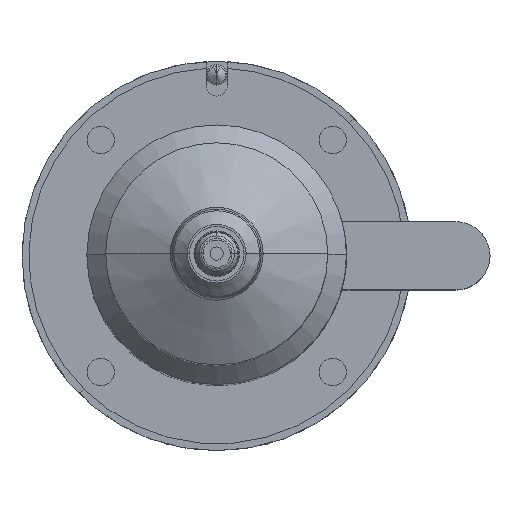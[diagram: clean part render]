
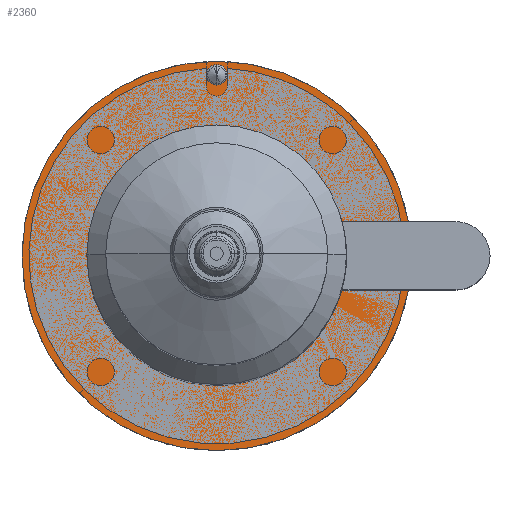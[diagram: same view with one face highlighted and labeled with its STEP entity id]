
A CAD part, top view. The second image highlights one B-rep face of the part: STEP entity #2360.
In plain terms, the highlighted planar face has unit normal (0, 0, 1).
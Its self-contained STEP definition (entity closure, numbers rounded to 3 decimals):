
#2360 = ADVANCED_FACE ( 'NONE', ( #14996, #14951 ), #11458, .T. ) ;
#7700 = CARTESIAN_POINT ( 'NONE',  ( 36.661, -10., 20. ) ) ;
#7714 = CARTESIAN_POINT ( 'NONE',  ( 56.116, -10., 20. ) ) ;
#7740 = CARTESIAN_POINT ( 'NONE',  ( 0., -57., 20. ) ) ;
#7776 = CARTESIAN_POINT ( 'NONE',  ( 0., 56., 20. ) ) ;
#7780 = CARTESIAN_POINT ( 'NONE',  ( -38., 0., 20. ) ) ;
#7816 = CARTESIAN_POINT ( 'NONE',  ( 36.661, 10., 20. ) ) ;
#7866 = CARTESIAN_POINT ( 'NONE',  ( 0., 50., 20. ) ) ;
#7868 = CARTESIAN_POINT ( 'NONE',  ( 0., 57., 20. ) ) ;
#7869 = CARTESIAN_POINT ( 'NONE',  ( 56.116, 10., 20. ) ) ;
#7954 = CARTESIAN_POINT ( 'NONE',  ( 0., 0., 20. ) ) ;
#7955 = DIRECTION ( 'NONE',  ( 0., 0., -1. ) ) ;
#7956 = DIRECTION ( 'NONE',  ( 0., 1., 0. ) ) ;
#8036 = CARTESIAN_POINT ( 'NONE',  ( 0., 0., 20. ) ) ;
#8037 = DIRECTION ( 'NONE',  ( 0., 0., 1. ) ) ;
#8038 = DIRECTION ( 'NONE',  ( 0., 1., 0. ) ) ;
#11316 = DIRECTION ( 'NONE',  ( 0., 0., 1. ) ) ;
#11426 = VERTEX_POINT ( 'NONE', #7700 ) ;
#11445 = DIRECTION ( 'NONE',  ( 0., 1., 0. ) ) ;
#11454 = VERTEX_POINT ( 'NONE', #7714 ) ;
#11458 = PLANE ( 'NONE',  #25893 ) ;
#11493 = VERTEX_POINT ( 'NONE', #7740 ) ;
#11503 = CARTESIAN_POINT ( 'NONE',  ( 0., 32.5, 20. ) ) ;
#11621 = VERTEX_POINT ( 'NONE', #7776 ) ;
#11703 = VERTEX_POINT ( 'NONE', #7780 ) ;
#11811 = VERTEX_POINT ( 'NONE', #7816 ) ;
#11995 = VERTEX_POINT ( 'NONE', #7866 ) ;
#11997 = VERTEX_POINT ( 'NONE', #7868 ) ;
#11998 = VERTEX_POINT ( 'NONE', #7869 ) ;
#14951 = FACE_BOUND ( 'NONE', #36655, .T. ) ;
#14996 = FACE_OUTER_BOUND ( 'NONE', #36503, .T. ) ;
#15199 = CIRCLE ( 'NONE', #37434, 38. ) ;
#15222 = CIRCLE ( 'NONE', #37361, 57. ) ;
#15252 = CIRCLE ( 'NONE', #37462, 57. ) ;
#15260 = CIRCLE ( 'NONE', #37445, 3. ) ;
#15306 = CIRCLE ( 'NONE', #37423, 3. ) ;
#15314 = CIRCLE ( 'NONE', #37421, 57. ) ;
#15326 = LINE ( 'NONE', #27116, #15327 ) ;
#15327 = VECTOR ( 'NONE', #27117, 1000. ) ;
#15332 = LINE ( 'NONE', #27122, #15333 ) ;
#15333 = VECTOR ( 'NONE', #27123, 1000. ) ;
#15335 = CIRCLE ( 'NONE', #37362, 38. ) ;
#18184 = ORIENTED_EDGE ( 'NONE', *, *, #22530, .F. ) ;
#18187 = ORIENTED_EDGE ( 'NONE', *, *, #22491, .F. ) ;
#18191 = ORIENTED_EDGE ( 'NONE', *, *, #22459, .T. ) ;
#18196 = ORIENTED_EDGE ( 'NONE', *, *, #22547, .T. ) ;
#18201 = ORIENTED_EDGE ( 'NONE', *, *, #22543, .F. ) ;
#18204 = ORIENTED_EDGE ( 'NONE', *, *, #22535, .T. ) ;
#18209 = ORIENTED_EDGE ( 'NONE', *, *, #22472, .T. ) ;
#18212 = ORIENTED_EDGE ( 'NONE', *, *, #22485, .T. ) ;
#18213 = ORIENTED_EDGE ( 'NONE', *, *, #22546, .F. ) ;
#22459 = EDGE_CURVE ( 'NONE', #11703, #11811, #15199, .T. ) ;
#22472 = EDGE_CURVE ( 'NONE', #11997, #11493, #15222, .T. ) ;
#22485 = EDGE_CURVE ( 'NONE', #11998, #11997, #15252, .T. ) ;
#22491 = EDGE_CURVE ( 'NONE', #11621, #11995, #15260, .T. ) ;
#22530 = EDGE_CURVE ( 'NONE', #11995, #11621, #15306, .T. ) ;
#22535 = EDGE_CURVE ( 'NONE', #11493, #11454, #15314, .T. ) ;
#22543 = EDGE_CURVE ( 'NONE', #11426, #11454, #15326, .T. ) ;
#22546 = EDGE_CURVE ( 'NONE', #11998, #11811, #15332, .T. ) ;
#22547 = EDGE_CURVE ( 'NONE', #11426, #11703, #15335, .T. ) ;
#25893 = AXIS2_PLACEMENT_3D ( 'NONE', #11503, #11316, #11445 ) ;
#26753 = CARTESIAN_POINT ( 'NONE',  ( 0., 0., 20. ) ) ;
#26755 = DIRECTION ( 'NONE',  ( 0., 0., 1. ) ) ;
#26757 = DIRECTION ( 'NONE',  ( 0., 1., 0. ) ) ;
#26866 = CARTESIAN_POINT ( 'NONE',  ( 0., 53., 20. ) ) ;
#26867 = DIRECTION ( 'NONE',  ( 0., 0., 1. ) ) ;
#26868 = DIRECTION ( 'NONE',  ( 0., 1., 0. ) ) ;
#27084 = CARTESIAN_POINT ( 'NONE',  ( 0., 53., 20. ) ) ;
#27085 = DIRECTION ( 'NONE',  ( 0., 0., 1. ) ) ;
#27086 = DIRECTION ( 'NONE',  ( 0., 1., 0. ) ) ;
#27097 = CARTESIAN_POINT ( 'NONE',  ( 0., 0., 20. ) ) ;
#27098 = DIRECTION ( 'NONE',  ( 0., 0., 1. ) ) ;
#27099 = DIRECTION ( 'NONE',  ( 0., 1., 0. ) ) ;
#27116 = CARTESIAN_POINT ( 'NONE',  ( 0., -10., 20. ) ) ;
#27117 = DIRECTION ( 'NONE',  ( 1., 0., 0. ) ) ;
#27122 = CARTESIAN_POINT ( 'NONE',  ( 0., 10., 20. ) ) ;
#27123 = DIRECTION ( 'NONE',  ( -1., 0., 0. ) ) ;
#27124 = CARTESIAN_POINT ( 'NONE',  ( 0., 0., 20. ) ) ;
#27125 = DIRECTION ( 'NONE',  ( 0., 0., -1. ) ) ;
#27126 = DIRECTION ( 'NONE',  ( 0., 1., 0. ) ) ;
#36503 = EDGE_LOOP ( 'NONE', ( #18213, #18212, #18209, #18204, #18201, #18196, #18191 ) ) ;
#36655 = EDGE_LOOP ( 'NONE', ( #18187, #18184 ) ) ;
#37361 = AXIS2_PLACEMENT_3D ( 'NONE', #8036, #8037, #8038 ) ;
#37362 = AXIS2_PLACEMENT_3D ( 'NONE', #27124, #27125, #27126 ) ;
#37421 = AXIS2_PLACEMENT_3D ( 'NONE', #27097, #27098, #27099 ) ;
#37423 = AXIS2_PLACEMENT_3D ( 'NONE', #27084, #27085, #27086 ) ;
#37434 = AXIS2_PLACEMENT_3D ( 'NONE', #7954, #7955, #7956 ) ;
#37445 = AXIS2_PLACEMENT_3D ( 'NONE', #26866, #26867, #26868 ) ;
#37462 = AXIS2_PLACEMENT_3D ( 'NONE', #26753, #26755, #26757 ) ;
